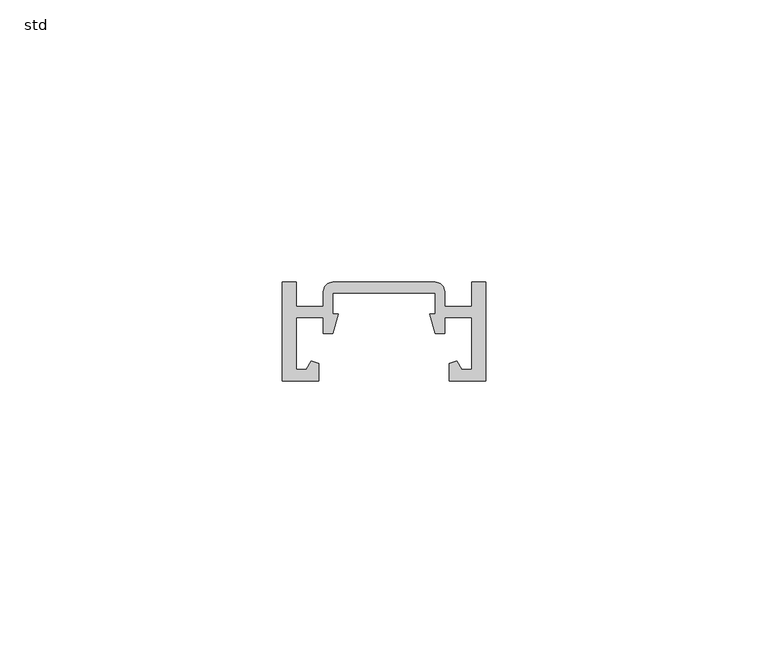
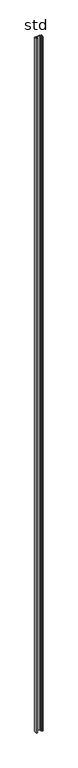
"""IFC4 building model written with IfcOpenShell, lengths in millimetres: column geometry, NLRS_21_COL_drager ST.0195_Storax : std."""

from ifc_helpers import new_model, si_unit, point, frame_2d, origin, origin_with_axes, place, context, project, spatial, polyline, circle_curve, trimmed, segment, composite_curve, outline, extrude, source, transform, mapped, element, save


def std_98619cea(model_context):
    return source(origin(), model_context, "Body", "SweptSolid", [
        extrude(outline(composite_curve([segment(polyline([(-18.0, -1.0), (-15.5290062, -1.0), (-15.5290062, -5.3142835), (-10.7447259, -5.3142835), (-10.7447259, -2.6869285)]), True, "CONTINUOUS"), segment(trimmed(circle_curve(frame_2d((-9.0577975, -2.6869285)), 1.6869285), [point((-10.7447259, -2.6869285))], [point((-9.0577975, -1.0))], False, "CARTESIAN"), True, "CONTINUOUS"), segment(polyline([(-9.0577975, -1.0), (9.0577975, -1.0)]), True, "CONTINUOUS"), segment(trimmed(circle_curve(frame_2d((9.0577975, -2.6869285)), 1.6869285), [point((9.0577975, -1.0))], [point((10.7447259, -2.6869285))], False, "CARTESIAN"), True, "CONTINUOUS"), segment(polyline([(10.7447259, -2.6869285), (10.7447259, -5.3142835), (15.5290062, -5.3142835), (15.5290062, -1.0), (18.0, -1.0), (18.0, -18.5), (11.5590009, -18.5), (11.5590009, -15.3784461), (12.8707181, -14.9977014), (13.7252094, -16.4777239), (15.5290062, -16.4777239), (15.5290062, -7.3100862), (10.7447259, -7.3100862), (10.7447259, -10.0899542), (9.0577975, -10.0899542), (8.0577975, -6.6448186), (9.0577975, -6.6448186), (9.0577975, -2.9178188), (-9.0577975, -2.9178188), (-9.0577975, -6.6448186), (-8.0577975, -6.6448186), (-9.0577975, -10.0899542), (-10.7447259, -10.0899542), (-10.7447259, -7.3100862), (-15.5290062, -7.3100862), (-15.5290062, -16.4777239), (-13.7252094, -16.4777239), (-12.8707181, -14.9977014), (-11.5590009, -15.3784461), (-11.5590009, -18.5), (-18.0, -18.5), (-18.0, -1.0)]), True, "CONTINUOUS")], self_intersect=False)), origin_with_axes(), (0.0, 0.0, 1.0), 4000.0),
    ])


if __name__ == "__main__":
    model = new_model("IFC4")
    model_context = context("Model", 3, world=origin())
    ifc_project = project(units=[si_unit("LENGTHUNIT", "METRE", prefix="MILLI")], contexts=[model_context])
    site = spatial("IfcSite", under=ifc_project)
    building = spatial("IfcBuilding", under=site)
    placement = place(None, origin())
    std_shape = std_98619cea(model_context)
    element("IfcColumn", 1, ObjectType="NLRS_21_COL_drager ST.0195_Storax : std", at=placement, inside=building, context=model_context, shape_type="MappedRepresentation", body=[
        mapped(std_shape, transform((0.0, 0.0, 0.0), x_axis=(1.0, 0.0, 0.0), y_axis=(0.0, 1.0, 0.0), z_axis=(0.0, 0.0, 1.0))),
    ])
    save(model, "model.ifc")
